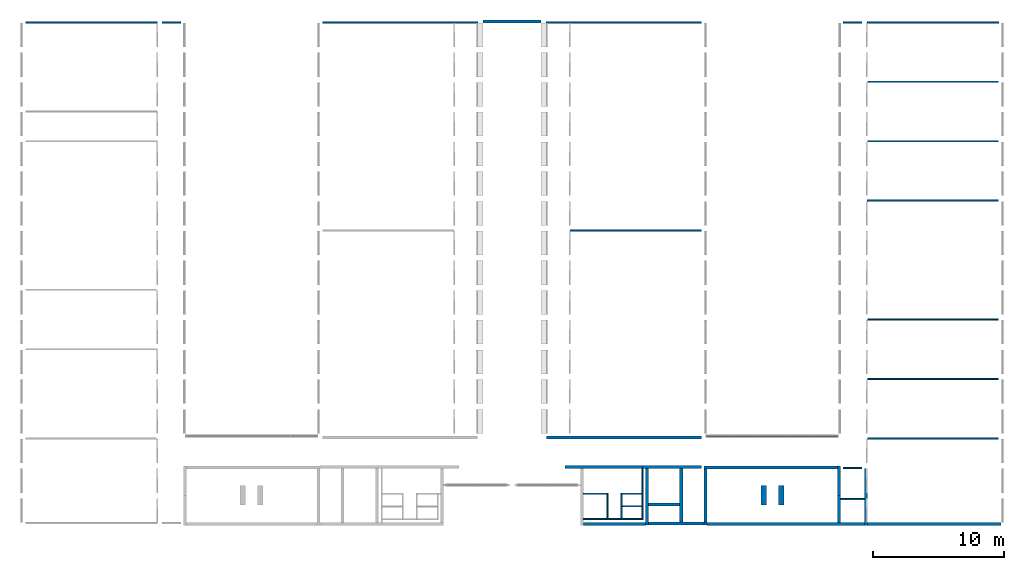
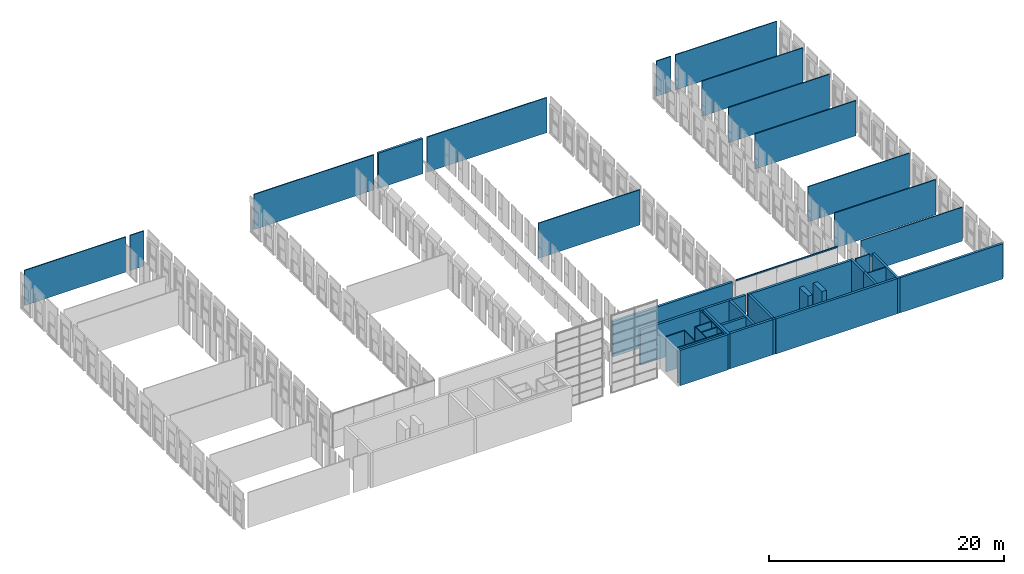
# One storey, part 8 of 16: 42 walls, 1 opening.
"""IFC2X3 building model written with IfcOpenShell, lengths in millimetres."""

from ifc_helpers import new_model, entity, si_unit, converted_unit, derived_unit, direction, frame, frame_2d, origin, place, context, subcontext, project, spatial, polyline, rectangle, extrude, clip, bounded_halfspace, material, layer, layer_set, layer_usage, type_object, element, save


model = new_model("IFC2X3")

# Units and contexts
model_context = context("Model", 3, precision=0.01, world=origin(), true_north=direction((6.12303176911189e-17, 1.0)))
body_context = subcontext(model_context, "Body", "Model", "MODEL_VIEW")
ifc_project = project(units=[si_unit("LENGTHUNIT", "METRE", prefix="MILLI"), si_unit("AREAUNIT", "SQUARE_METRE"), si_unit("VOLUMEUNIT", "CUBIC_METRE"), converted_unit("PLANEANGLEUNIT", "DEGREE", entity("IfcRatioMeasure", 0.0174532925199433), si_unit("PLANEANGLEUNIT", "RADIAN"), dimensions=[0, 0, 0, 0, 0, 0, 0]), si_unit("MASSUNIT", "GRAM", prefix="KILO"), derived_unit("MASSDENSITYUNIT", [(si_unit("MASSUNIT", "GRAM", prefix="KILO"), 1), (si_unit("LENGTHUNIT", "METRE"), -3)]), derived_unit("MOMENTOFINERTIAUNIT", [(si_unit("LENGTHUNIT", "METRE"), 4)]), si_unit("TIMEUNIT", "SECOND"), si_unit("FREQUENCYUNIT", "HERTZ"), si_unit("THERMODYNAMICTEMPERATUREUNIT", "DEGREE_CELSIUS"), derived_unit("THERMALTRANSMITTANCEUNIT", [(si_unit("MASSUNIT", "GRAM", prefix="KILO"), 1), (si_unit("THERMODYNAMICTEMPERATUREUNIT", "KELVIN"), -1), (si_unit("TIMEUNIT", "SECOND"), -3)]), derived_unit("VOLUMETRICFLOWRATEUNIT", [(si_unit("LENGTHUNIT", "METRE"), 3), (si_unit("TIMEUNIT", "SECOND"), -1)]), si_unit("ELECTRICCURRENTUNIT", "AMPERE"), si_unit("ELECTRICVOLTAGEUNIT", "VOLT"), si_unit("POWERUNIT", "WATT"), si_unit("FORCEUNIT", "NEWTON", prefix="KILO"), si_unit("ILLUMINANCEUNIT", "LUX"), si_unit("LUMINOUSFLUXUNIT", "LUMEN"), si_unit("LUMINOUSINTENSITYUNIT", "CANDELA"), derived_unit("USERDEFINED", [(si_unit("MASSUNIT", "GRAM", prefix="KILO"), -1), (si_unit("LENGTHUNIT", "METRE"), -2), (si_unit("TIMEUNIT", "SECOND"), 3), (si_unit("LUMINOUSFLUXUNIT", "LUMEN"), 1)]), derived_unit("LINEARVELOCITYUNIT", [(si_unit("LENGTHUNIT", "METRE"), 1), (si_unit("TIMEUNIT", "SECOND"), -1)]), si_unit("PRESSUREUNIT", "PASCAL"), derived_unit("USERDEFINED", [(si_unit("LENGTHUNIT", "METRE"), -2), (si_unit("MASSUNIT", "GRAM", prefix="KILO"), 1), (si_unit("TIMEUNIT", "SECOND"), -2)]), derived_unit("LINEARFORCEUNIT", [(si_unit("MASSUNIT", "GRAM", prefix="KILO"), 1), (si_unit("LENGTHUNIT", "METRE"), 1), (si_unit("TIMEUNIT", "SECOND"), -2), (si_unit("LENGTHUNIT", "METRE"), -1)]), derived_unit("PLANARFORCEUNIT", [(si_unit("MASSUNIT", "GRAM", prefix="KILO"), 1), (si_unit("LENGTHUNIT", "METRE"), 1), (si_unit("TIMEUNIT", "SECOND"), -2), (si_unit("LENGTHUNIT", "METRE"), -2)])], contexts=[model_context])

# Site, building, storey
site_placement = place(None, frame((10627.5135316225, 21939.0796949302, 0.0)))
site = spatial("IfcSite", under=ifc_project, at=site_placement, Name="Default", CompositionType="ELEMENT")
building_placement = place(site_placement, origin())
building = spatial("IfcBuilding", under=site, at=building_placement, CompositionType="ELEMENT")
storey_placement = place(building_placement, frame((0.0, 0.0, 3660.0)))
storey = spatial("IfcBuildingStorey", under=building, at=storey_placement, Name="R+1", CompositionType="ELEMENT", Elevation=3660.0)

# Wall, opening
ifc_material_1 = material(Name="Paint - White Lining")
ifc_layer_1 = layer(ifc_material_1, 3.0)
ifc_material_2 = material(Name="Concrete Masonry Units")
ifc_layer_2 = layer(ifc_material_2, 94.0)
ifc_layer_3 = layer(ifc_material_1, 3.0)
ifc_layer_set_1 = layer_set([ifc_layer_1, ifc_layer_2, ifc_layer_3], Name="Basic Wall:Wall-Int 100")
ifc_layer_usage_1 = layer_usage(ifc_layer_set_1, "AXIS2", "POSITIVE", -50.0)
wall_type_1 = type_object("IfcWallType", Name="Basic Wall:Wall-Int 100", PredefinedType="STANDARD", material=ifc_layer_set_1)
wall_1_placement = place(storey_placement, frame((51357.4864683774, -15206.0796949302, 3520.0), z_axis=(0.0, 0.0, 1.0), x_axis=(-1.0, 0.0, 0.0)))
wall_1 = element("IfcWallStandardCase", 1, at=wall_1_placement, inside=storey, type_object=wall_type_1, material=ifc_layer_usage_1, Name="Basic Wall:Wall-Int 100", ObjectType="Basic Wall:Wall-Int 100", context=body_context, shape_type="SweptSolid", body=[
    extrude(rectangle(XDim=9950.0, YDim=99.9999999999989, at=frame_2d((4975.0, 0.0), x_axis=(-1.0, 0.0))), origin(), (0.0, 0.0, 1.0), 140.000000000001),
])
opening_placement = place(wall_1_placement, origin())
element("IfcOpeningElement", 2, at=opening_placement, cuts=wall_1, Name="Basic Wall:Wall-Int 100", ObjectType="Opening", context=body_context, shape_type="SweptSolid", body=[
    extrude(rectangle(XDim=3520.0, YDim=9950.0, at=frame_2d((4.09272615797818e-12, -4.54747350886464e-13), x_axis=(0.0, 1.0))), frame((4975.0, -202.399999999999, -1760.0), z_axis=(0.0, 1.0, 0.0), x_axis=(-1.0, 0.0, 0.0)), (0.0, 0.0, 1.0), 404.799999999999),
])

# Walls
ifc_layer_usage_2 = layer_usage(ifc_layer_set_1, "AXIS2", "NEGATIVE", 50.0)
wall_2_placement = place(storey_placement, frame((40977.4864683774, 495.920305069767, 0.0), z_axis=(0.0, 0.0, 1.0), x_axis=(-1.0, 0.0, 0.0)))
element("IfcWallStandardCase", 3, at=wall_2_placement, inside=storey, type_object=wall_type_1, material=ifc_layer_usage_2, Name="Basic Wall:Wall-Int 100", ObjectType="Basic Wall:Wall-Int 100", context=body_context, shape_type="SweptSolid", body=[
    extrude(rectangle(XDim=9951.00000000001, YDim=100.0, at=frame_2d((4975.5, 0.0), x_axis=(-1.0, 0.0))), origin(), (0.0, 0.0, 1.0), 3660.0),
])
ifc_layer_usage_3 = layer_usage(ifc_layer_set_1, "AXIS2", "POSITIVE", -50.0)
wall_3_placement = place(storey_placement, frame((-10414.5135316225, 16315.9203050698, 0.0)))
element("IfcWallStandardCase", 4, at=wall_3_placement, inside=storey, type_object=wall_type_1, material=ifc_layer_usage_3, Name="Basic Wall:Wall-Int 100", ObjectType="Basic Wall:Wall-Int 100", context=body_context, shape_type="SweptSolid", body=[
    extrude(rectangle(XDim=10004.0, YDim=99.9999999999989, at=frame_2d((5002.0, 8.17124146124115e-14), x_axis=(-1.0, 0.0))), origin(), (0.0, 0.0, 1.0), 3660.0),
])
ifc_layer_usage_4 = layer_usage(ifc_layer_set_1, "AXIS2", "POSITIVE", -50.0)
wall_4_placement = place(storey_placement, frame((-24.5135316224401, 16315.6927468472, 0.0)))
element("IfcWallStandardCase", 5, at=wall_4_placement, inside=storey, type_object=wall_type_1, material=ifc_layer_usage_4, Name="Basic Wall:Wall-Int 100", ObjectType="Basic Wall:Wall-Int 100", context=body_context, shape_type="SweptSolid", body=[
    extrude(rectangle(XDim=1400.0, YDim=99.9999999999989, at=frame_2d((700.0, 0.0), x_axis=(-1.0, 0.0))), origin(), (0.0, 0.0, 1.0), 3660.0),
])
ifc_layer_usage_5 = layer_usage(ifc_layer_set_1, "AXIS2", "NEGATIVE", 50.0)
wall_5_placement = place(storey_placement, frame((53179.4864683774, 16315.6927468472, 0.0), z_axis=(0.0, 0.0, 1.0), x_axis=(-1.0, 0.0, 0.0)))
element("IfcWallStandardCase", 6, at=wall_5_placement, inside=storey, type_object=wall_type_1, material=ifc_layer_usage_5, Name="Basic Wall:Wall-Int 100", ObjectType="Basic Wall:Wall-Int 100", context=body_context, shape_type="SweptSolid", body=[
    extrude(rectangle(XDim=1400.0, YDim=99.9999999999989, at=frame_2d((700.000000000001, 0.0), x_axis=(-1.0, 0.0))), origin(), (0.0, 0.0, 1.0), 3660.0),
])
ifc_layer_usage_6 = layer_usage(ifc_layer_set_1, "AXIS2", "POSITIVE", -50.0)
wall_6_placement = place(storey_placement, frame((53615.4864683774, 16315.9203050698, 0.0)))
element("IfcWallStandardCase", 7, at=wall_6_placement, inside=storey, type_object=wall_type_1, material=ifc_layer_usage_6, Name="Basic Wall:Wall-Int 100", ObjectType="Basic Wall:Wall-Int 100", context=body_context, shape_type="SweptSolid", body=[
    extrude(rectangle(XDim=9980.00000000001, YDim=99.9999999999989, at=frame_2d((4990.0, 0.0), x_axis=(-1.0, 0.0))), origin(), (0.0, 0.0, 1.0), 3660.0),
])
ifc_layer_usage_7 = layer_usage(ifc_layer_set_1, "AXIS2", "POSITIVE", -50.0)
wall_7_placement = place(storey_placement, frame((53616.4864683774, 11795.9203050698, 0.0)))
element("IfcWallStandardCase", 8, at=wall_7_placement, inside=storey, type_object=wall_type_1, material=ifc_layer_usage_7, Name="Basic Wall:Wall-Int 100", ObjectType="Basic Wall:Wall-Int 100", context=body_context, shape_type="SweptSolid", body=[
    extrude(rectangle(XDim=9950.99999999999, YDim=99.9999999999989, at=frame_2d((4975.5, 0.0), x_axis=(-1.0, 0.0))), origin(), (0.0, 0.0, 1.0), 3660.0),
])
ifc_layer_usage_8 = layer_usage(ifc_layer_set_1, "AXIS2", "NEGATIVE", 50.0)
wall_8_placement = place(storey_placement, frame((63569.4864683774, 7275.92030506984, 0.0), z_axis=(0.0, 0.0, 1.0), x_axis=(-1.0, 0.0, 0.0)))
element("IfcWallStandardCase", 9, at=wall_8_placement, inside=storey, type_object=wall_type_1, material=ifc_layer_usage_8, Name="Basic Wall:Wall-Int 100", ObjectType="Basic Wall:Wall-Int 100", context=body_context, shape_type="SweptSolid", body=[
    extrude(rectangle(XDim=9952.0, YDim=99.9999999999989, at=frame_2d((4976.0, 0.0), x_axis=(-1.0, 0.0))), origin(), (0.0, 0.0, 1.0), 3660.0),
])
ifc_layer_usage_9 = layer_usage(ifc_layer_set_1, "AXIS2", "POSITIVE", -50.0)
wall_9_placement = place(storey_placement, frame((53615.4864683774, 2755.92030506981, 0.0)))
element("IfcWallStandardCase", 10, at=wall_9_placement, inside=storey, type_object=wall_type_1, material=ifc_layer_usage_9, Name="Basic Wall:Wall-Int 100", ObjectType="Basic Wall:Wall-Int 100", context=body_context, shape_type="SweptSolid", body=[
    extrude(rectangle(XDim=9951.99999999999, YDim=100.0, at=frame_2d((4975.99999999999, 0.0), x_axis=(-1.0, 0.0))), origin(), (0.0, 0.0, 1.0), 3660.0),
])
ifc_layer_usage_10 = layer_usage(ifc_layer_set_1, "AXIS2", "NEGATIVE", 50.0)
wall_10_placement = place(storey_placement, frame((63569.4864683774, -6284.07969493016, 0.0), z_axis=(0.0, 0.0, 1.0), x_axis=(-1.0, 0.0, 0.0)))
element("IfcWallStandardCase", 11, at=wall_10_placement, inside=storey, type_object=wall_type_1, material=ifc_layer_usage_10, Name="Basic Wall:Wall-Int 100", ObjectType="Basic Wall:Wall-Int 100", context=body_context, shape_type="SweptSolid", body=[
    extrude(rectangle(XDim=9952.0, YDim=99.9999999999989, at=frame_2d((4976.0, 0.0), x_axis=(-1.0, 0.0))), origin(), (0.0, 0.0, 1.0), 3660.0),
])
ifc_layer_usage_11 = layer_usage(ifc_layer_set_1, "AXIS2", "POSITIVE", -50.0)
wall_11_placement = place(storey_placement, frame((53617.4864683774, -10804.0796949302, 0.0)))
element("IfcWallStandardCase", 12, at=wall_11_placement, inside=storey, type_object=wall_type_1, material=ifc_layer_usage_11, Name="Basic Wall:Wall-Int 100", ObjectType="Basic Wall:Wall-Int 100", context=body_context, shape_type="SweptSolid", body=[
    extrude(rectangle(XDim=9950.0, YDim=99.9999999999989, at=frame_2d((4975.0, 0.0), x_axis=(-1.0, 0.0))), origin(), (0.0, 0.0, 1.0), 3660.0),
])
ifc_layer_usage_12 = layer_usage(ifc_layer_set_1, "AXIS2", "NEGATIVE", 50.0)
wall_12_placement = place(storey_placement, frame((63569.4864683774, -15324.0796949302, 0.0), z_axis=(0.0, 0.0, 1.0), x_axis=(-1.0, 0.0, 0.0)))
element("IfcWallStandardCase", 13, at=wall_12_placement, inside=storey, type_object=wall_type_1, material=ifc_layer_usage_12, Name="Basic Wall:Wall-Int 100", ObjectType="Basic Wall:Wall-Int 100", context=body_context, shape_type="Clipping", body=[
    clip(extrude(rectangle(XDim=9952.0, YDim=99.9999999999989, at=frame_2d((4976.0, 0.0), x_axis=(-1.0, 0.0))), origin(), (0.0, 0.0, 1.0), 3530.0), bounded_halfspace(frame((0.0, -50.0, 3530.0), z_axis=(0.0, 0.0, -1.0), x_axis=(1.0, 0.0, 0.0)), True, frame((0.0, -50.0, 3530.0)), polyline([(0.0, 0.0), (9952.0, 0.0), (9952.0, 100.0), (0.0, 100.0), (0.0, 0.0)]))),
])
ifc_layer_usage_13 = layer_usage(ifc_layer_set_1, "AXIS2", "POSITIVE", -50.0)
wall_13_placement = place(storey_placement, frame((51785.4864683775, -17584.0796949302, 0.0)))
element("IfcWallStandardCase", 14, at=wall_13_placement, inside=storey, type_object=wall_type_1, material=ifc_layer_usage_13, Name="Basic Wall:Wall-Int 100", ObjectType="Basic Wall:Wall-Int 100", context=body_context, shape_type="SweptSolid", body=[
    extrude(rectangle(XDim=1404.0, YDim=99.9999999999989, at=frame_2d((702.000000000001, 0.0), x_axis=(-1.0, 0.0))), origin(), (0.0, 0.0, 1.0), 3660.0),
])
ifc_layer_usage_14 = layer_usage(ifc_layer_set_1, "AXIS2", "NEGATIVE", 50.0)
wall_14_placement = place(storey_placement, frame((51572.4864683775, -19944.0796949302, 0.0)))
element("IfcWallStandardCase", 15, at=wall_14_placement, inside=storey, type_object=wall_type_1, material=ifc_layer_usage_14, Name="Basic Wall:Wall-Int 100", ObjectType="Basic Wall:Wall-Int 100", context=body_context, shape_type="SweptSolid", body=[
    extrude(rectangle(XDim=1812.99999999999, YDim=100.000000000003, at=frame_2d((906.499999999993, -2.1316282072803e-14), x_axis=(-1.0, 0.0))), origin(), (0.0, 0.0, 1.0), 3660.0),
])
ifc_layer_usage_15 = layer_usage(ifc_layer_set_1, "AXIS2", "NEGATIVE", 50.0)
wall_15_placement = place(storey_placement, frame((36554.803606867, -21454.3072488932, 0.0), z_axis=(0.0, 0.0, 1.0), x_axis=(-1.0, 0.0, 0.0)))
element("IfcWallStandardCase", 16, at=wall_15_placement, inside=storey, type_object=wall_type_1, material=ifc_layer_usage_15, Name="Basic Wall:Wall-Int 100", ObjectType="Basic Wall:Wall-Int 100", context=body_context, shape_type="SweptSolid", body=[
    extrude(rectangle(XDim=4541.95714284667, YDim=100.000000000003, at=frame_2d((2270.97857142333, -1.59872115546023e-13), x_axis=(-1.0, 0.0))), origin(), (0.0, 0.0, 1.0), 3660.0),
])
ifc_layer_usage_16 = layer_usage(ifc_layer_set_1, "AXIS2", "POSITIVE", -50.0)
wall_16_placement = place(storey_placement, frame((36504.803606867, -21404.3072488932, 0.0), z_axis=(0.0, 0.0, 1.0), x_axis=(0.0, 1.0, 0.0)))
element("IfcWallStandardCase", 17, at=wall_16_placement, inside=storey, type_object=wall_type_1, material=ifc_layer_usage_16, Name="Basic Wall:Wall-Int 100", ObjectType="Basic Wall:Wall-Int 100", context=body_context, shape_type="SweptSolid", body=[
    extrude(rectangle(XDim=3770.22755396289, YDim=100.000000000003, at=frame_2d((1885.11377698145, -8.88178419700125e-14), x_axis=(-1.0, 0.0))), origin(), (0.0, 0.0, 1.0), 3660.0),
])
ifc_layer_usage_17 = layer_usage(ifc_layer_set_1, "AXIS2", "POSITIVE", -50.0)
wall_17_placement = place(storey_placement, frame((36454.803606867, -19536.6934719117, 0.0), z_axis=(0.0, 0.0, 1.0), x_axis=(-1.0, 0.0, 0.0)))
element("IfcWallStandardCase", 18, at=wall_17_placement, inside=storey, type_object=wall_type_1, material=ifc_layer_usage_17, Name="Basic Wall:Wall-Int 100", ObjectType="Basic Wall:Wall-Int 100", context=body_context, shape_type="SweptSolid", body=[
    extrude(rectangle(XDim=1590.0, YDim=100.000000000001, at=frame_2d((794.999999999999, 1.01252339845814e-12), x_axis=(-1.0, 0.0))), origin(), (0.0, 0.0, 1.0), 3660.0),
])
ifc_layer_usage_18 = layer_usage(ifc_layer_set_1, "AXIS2", "POSITIVE", -50.0)
wall_18_placement = place(storey_placement, frame((34914.803606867, -19586.6934719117, 0.0), z_axis=(0.0, 0.0, 1.0), x_axis=(0.0, -1.0, 0.0)))
element("IfcWallStandardCase", 19, at=wall_18_placement, inside=storey, type_object=wall_type_1, material=ifc_layer_usage_18, Name="Basic Wall:Wall-Int 100", ObjectType="Basic Wall:Wall-Int 100", context=body_context, shape_type="SweptSolid", body=[
    extrude(rectangle(XDim=1817.6137769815, YDim=100.000000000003, at=frame_2d((908.806888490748, -1.63424829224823e-13), x_axis=(-1.0, 0.0))), origin(), (0.0, 0.0, 1.0), 3660.0),
])
ifc_layer_usage_19 = layer_usage(ifc_layer_set_1, "AXIS2", "POSITIVE", -50.0)
wall_19_placement = place(storey_placement, frame((34964.803606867, -20489.0796949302, 0.0)))
element("IfcWallStandardCase", 20, at=wall_19_placement, inside=storey, type_object=wall_type_1, material=ifc_layer_usage_19, Name="Basic Wall:Wall-Int 100", ObjectType="Basic Wall:Wall-Int 100", context=body_context, shape_type="SweptSolid", body=[
    extrude(rectangle(XDim=1490.0, YDim=100.000000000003, at=frame_2d((745.0, -1.35003119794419e-13), x_axis=(-1.0, 0.0))), origin(), (0.0, 0.0, 1.0), 3660.0),
])
ifc_layer_usage_20 = layer_usage(ifc_layer_set_1, "AXIS2", "NEGATIVE", 50.0)
wall_20_placement = place(storey_placement, frame((32012.8464640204, -19537.5188881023, 0.0)))
element("IfcWallStandardCase", 21, at=wall_20_placement, inside=storey, type_object=wall_type_1, material=ifc_layer_usage_20, Name="Basic Wall:Wall-Int 100", ObjectType="Basic Wall:Wall-Int 100", context=body_context, shape_type="SweptSolid", body=[
    extrude(rectangle(XDim=1879.64000435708, YDim=100.000000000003, at=frame_2d((939.820002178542, -1.06581410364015e-12), x_axis=(-1.0, 0.0))), origin(), (0.0, 0.0, 1.0), 3660.0),
])
ifc_layer_usage_21 = layer_usage(ifc_layer_set_1, "AXIS2", "NEGATIVE", 50.0)
wall_21_placement = place(storey_placement, frame((33842.4864683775, -19587.5188881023, 0.0), z_axis=(0.0, 0.0, 1.0), x_axis=(0.0, -1.0, 0.0)))
element("IfcWallStandardCase", 22, at=wall_21_placement, inside=storey, type_object=wall_type_1, material=ifc_layer_usage_21, Name="Basic Wall:Wall-Int 100", ObjectType="Basic Wall:Wall-Int 100", context=body_context, shape_type="SweptSolid", body=[
    extrude(rectangle(XDim=1816.78836079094, YDim=100.000000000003, at=frame_2d((908.394180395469, -1.63424829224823e-13), x_axis=(-1.0, 0.0))), origin(), (0.0, 0.0, 1.0), 3660.0),
])
ifc_layer_usage_22 = layer_usage(ifc_layer_set_1, "AXIS2", "NEGATIVE", 50.0)
wall_22_placement = place(storey_placement, frame((23967.8464640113, 16315.6927553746, 0.0), z_axis=(0.0, 0.0, 1.0), x_axis=(-1.0, 0.0, 0.0)))
element("IfcWallStandardCase", 23, at=wall_22_placement, inside=storey, type_object=wall_type_1, material=ifc_layer_usage_22, Name="Basic Wall:Wall-Int 100", ObjectType="Basic Wall:Wall-Int 100", context=body_context, shape_type="SweptSolid", body=[
    extrude(rectangle(XDim=11800.0, YDim=99.9999999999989, at=frame_2d((5900.0, -3.19744231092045e-14), x_axis=(-1.0, 0.0))), origin(), (0.0, 0.0, 1.0), 3660.0),
])
ifc_layer_usage_23 = layer_usage(ifc_layer_set_1, "AXIS2", "POSITIVE", -50.0)
wall_23_placement = place(storey_placement, frame((29195.4864683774, 16315.9203050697, 0.0)))
element("IfcWallStandardCase", 24, at=wall_23_placement, inside=storey, type_object=wall_type_1, material=ifc_layer_usage_23, Name="Basic Wall:Wall-Int 100", ObjectType="Basic Wall:Wall-Int 100", context=body_context, shape_type="SweptSolid", body=[
    extrude(rectangle(XDim=11784.0, YDim=99.9999999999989, at=frame_2d((5892.0, 0.0), x_axis=(-1.0, 0.0))), origin(), (0.0, 0.0, 1.0), 3660.0),
])
ifc_layer_4 = layer(ifc_material_1, 15.0)
ifc_material_3 = material(Name="Concrete - Precast Concrete - 35 MPa")
ifc_layer_5 = layer(ifc_material_3, 400.0)
ifc_layer_6 = layer(ifc_material_1, 15.0)
ifc_layer_set_2 = layer_set([ifc_layer_4, ifc_layer_5, ifc_layer_6], Name="Basic Wall:Mur430PentureBlanche")
ifc_layer_usage_24 = layer_usage(ifc_layer_set_2, "AXIS2", "POSITIVE", -215.0)
wall_type_2 = type_object("IfcWallType", Name="Basic Wall:Mur430PentureBlanche", PredefinedType="STANDARD", material=ifc_layer_set_2)
wall_24_placement = place(storey_placement, frame((47059.9064788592, -18920.8001977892, 0.0), z_axis=(0.0, 0.0, 1.0), x_axis=(0.0, -1.0, 0.0)))
element("IfcWallStandardCase", 25, at=wall_24_placement, inside=storey, type_object=wall_type_2, material=ifc_layer_usage_24, Name="Basic Wall:Mur430PentureBlanche", ObjectType="Basic Wall:Mur430PentureBlanche", context=body_context, shape_type="SweptSolid", body=[
    extrude(rectangle(XDim=1490.00177328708, YDim=430.000000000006, at=frame_2d((745.000886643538, -1.08002495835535e-12), x_axis=(-1.0, 0.0))), origin(), (0.0, 0.0, 1.0), 3660.0),
])
ifc_layer_usage_25 = layer_usage(ifc_layer_set_2, "AXIS2", "POSITIVE", -215.0)
wall_25_placement = place(storey_placement, frame((45714.9043663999, -18920.8001977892, 0.0), z_axis=(0.0, 0.0, 1.0), x_axis=(0.0, -1.0, 0.0)))
element("IfcWallStandardCase", 26, at=wall_25_placement, inside=storey, type_object=wall_type_2, material=ifc_layer_usage_25, Name="Basic Wall:Mur430PentureBlanche", ObjectType="Basic Wall:Mur430PentureBlanche", context=body_context, shape_type="SweptSolid", body=[
    extrude(rectangle(XDim=1490.00177328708, YDim=430.000000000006, at=frame_2d((745.000886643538, -1.08002495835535e-12), x_axis=(-1.0, 0.0))), origin(), (0.0, 0.0, 1.0), 3660.0),
])
ifc_layer_7 = layer(ifc_material_1, 15.0)
ifc_layer_8 = layer(ifc_material_3, 200.0)
ifc_layer_9 = layer(ifc_material_1, 15.0)
ifc_layer_set_3 = layer_set([ifc_layer_7, ifc_layer_8, ifc_layer_9], Name="Basic Wall:Mur200PentureBlanche 2")
ifc_layer_usage_26 = layer_usage(ifc_layer_set_3, "AXIS2", "POSITIVE", -115.0)
wall_type_3 = type_object("IfcWallType", Name="Basic Wall:Mur200PentureBlanche 2", PredefinedType="STANDARD", material=ifc_layer_set_3)
wall_26_placement = place(storey_placement, frame((51457.4864683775, -21724.0796949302, 0.0), z_axis=(0.0, 0.0, 1.0), x_axis=(0.0, 1.0, 0.0)))
element("IfcWallStandardCase", 27, at=wall_26_placement, inside=storey, type_object=wall_type_3, material=ifc_layer_usage_26, Name="Basic Wall:Mur200PentureBlanche 2", ObjectType="Basic Wall:Mur200PentureBlanche 2", context=body_context, shape_type="SweptSolid", body=[
    extrude(rectangle(XDim=2045.00000000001, YDim=230.0, at=frame_2d((1022.5, -1.66267000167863e-12), x_axis=(-1.0, 0.0))), origin(), (0.0, 0.0, 1.0), 3660.0),
])
ifc_layer_usage_27 = layer_usage(ifc_layer_set_3, "AXIS2", "NEGATIVE", 115.0)
wall_27_placement = place(storey_placement, frame((51459.4864683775, -19679.0796949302, 0.0), z_axis=(0.0, 0.0, 1.0), x_axis=(0.0, 1.0, 0.0)))
element("IfcWallStandardCase", 28, at=wall_27_placement, inside=storey, type_object=wall_type_3, material=ifc_layer_usage_27, Name="Basic Wall:Mur200PentureBlanche 2", ObjectType="Basic Wall:Mur200PentureBlanche 2", context=body_context, shape_type="SweptSolid", body=[
    extrude(rectangle(XDim=2259.99999999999, YDim=230.0, at=frame_2d((1130.0, -1.83320025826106e-12), x_axis=(-1.0, 0.0))), origin(), (0.0, 0.0, 1.0), 3660.0),
])
ifc_layer_usage_28 = layer_usage(ifc_layer_set_3, "AXIS2", "NEGATIVE", 115.0)
wall_28_placement = place(storey_placement, frame((51344.4864683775, -17534.0796949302, 0.0), z_axis=(0.0, 0.0, 1.0), x_axis=(-1.0, 0.0, 0.0)))
element("IfcWallStandardCase", 29, at=wall_28_placement, inside=storey, type_object=wall_type_3, material=ifc_layer_usage_28, Name="Basic Wall:Mur200PentureBlanche 2", ObjectType="Basic Wall:Mur200PentureBlanche 2", context=body_context, shape_type="SweptSolid", body=[
    extrude(rectangle(XDim=10152.0, YDim=230.0, at=frame_2d((5076.0, -3.19744231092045e-13), x_axis=(-1.0, 0.0))), origin(), (0.0, 0.0, 1.0), 3660.0),
])
ifc_layer_usage_29 = layer_usage(ifc_layer_set_3, "AXIS2", "NEGATIVE", 115.0)
wall_29_placement = place(storey_placement, frame((41307.4864683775, -17649.0796949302, 0.0), z_axis=(0.0, 0.0, 1.0), x_axis=(0.0, -1.0, 0.0)))
element("IfcWallStandardCase", 30, at=wall_29_placement, inside=storey, type_object=wall_type_3, material=ifc_layer_usage_29, Name="Basic Wall:Mur200PentureBlanche 2", ObjectType="Basic Wall:Mur200PentureBlanche 2", context=body_context, shape_type="SweptSolid", body=[
    extrude(rectangle(XDim=4034.99999999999, YDim=230.0, at=frame_2d((2017.5, -8.81072992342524e-13), x_axis=(-1.0, 0.0))), origin(), (0.0, 0.0, 1.0), 3660.0),
])
ifc_layer_usage_30 = layer_usage(ifc_layer_set_3, "AXIS2", "NEGATIVE", 115.0)
wall_30_placement = place(storey_placement, frame((41307.4864683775, -17649.0796949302, 0.0), z_axis=(0.0, 0.0, 1.0), x_axis=(0.0, -1.0, 0.0)))
element("IfcWallStandardCase", 31, at=wall_30_placement, inside=storey, type_object=wall_type_3, material=ifc_layer_usage_30, Name="Basic Wall:Mur200PentureBlanche 2", ObjectType="Basic Wall:Mur200PentureBlanche 2", context=body_context, shape_type="SweptSolid", body=[
    extrude(rectangle(XDim=4264.99999999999, YDim=230.0, at=frame_2d((2132.5, -1.17239551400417e-12), x_axis=(-1.0, 0.0))), origin(), (0.0, 0.0, 1.0), 3660.0),
])
ifc_layer_usage_31 = layer_usage(ifc_layer_set_3, "AXIS2", "POSITIVE", -115.0)
wall_31_placement = place(storey_placement, frame((40977.4864683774, -17519.0796949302, 0.0), z_axis=(0.0, 0.0, 1.0), x_axis=(-1.0, 0.0, 0.0)))
element("IfcWallStandardCase", 32, at=wall_31_placement, inside=storey, type_object=wall_type_3, material=ifc_layer_usage_31, Name="Basic Wall:Mur200PentureBlanche 2", ObjectType="Basic Wall:Mur200PentureBlanche 2", context=body_context, shape_type="SweptSolid", body=[
    extrude(rectangle(XDim=4472.6828615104, YDim=230.0, at=frame_2d((2236.3414307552, 7.105427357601e-15), x_axis=(-1.0, 0.0))), origin(), (0.0, 0.0, 1.0), 3660.0),
])
ifc_layer_usage_32 = layer_usage(ifc_layer_set_3, "AXIS2", "POSITIVE", -115.0)
wall_32_placement = place(storey_placement, frame((36850.1073360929, -17634.0796949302, 0.0), z_axis=(0.0, 0.0, 1.0), x_axis=(0.0, -1.0, 0.0)))
element("IfcWallStandardCase", 33, at=wall_32_placement, inside=storey, type_object=wall_type_3, material=ifc_layer_usage_32, Name="Basic Wall:Mur200PentureBlanche 2", ObjectType="Basic Wall:Mur200PentureBlanche 2", context=body_context, shape_type="SweptSolid", body=[
    extrude(rectangle(XDim=4280.0, YDim=230.0, at=frame_2d((2140.0, 0.0), x_axis=(-1.0, 0.0))), origin(), (0.0, 0.0, 1.0), 3660.0),
])
ifc_layer_usage_33 = layer_usage(ifc_layer_set_3, "AXIS2", "POSITIVE", -115.0)
wall_33_placement = place(storey_placement, frame((36965.1073360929, -21799.0796949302, 0.0)))
element("IfcWallStandardCase", 34, at=wall_33_placement, inside=storey, type_object=wall_type_3, material=ifc_layer_usage_33, Name="Basic Wall:Mur200PentureBlanche 2", ObjectType="Basic Wall:Mur200PentureBlanche 2", context=body_context, shape_type="SweptSolid", body=[
    extrude(rectangle(XDim=4227.37913228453, YDim=230.0, at=frame_2d((2113.68956614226, -1.70530256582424e-13), x_axis=(-1.0, 0.0))), origin(), (0.0, 0.0, 1.0), 3660.0),
])
ifc_layer_usage_34 = layer_usage(ifc_layer_set_3, "AXIS2", "NEGATIVE", 115.0)
wall_34_placement = place(storey_placement, frame((39450.1065292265, -17634.0796949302, 0.0), z_axis=(0.0, 0.0, 1.0), x_axis=(0.0, -1.0, 0.0)))
element("IfcWallStandardCase", 35, at=wall_34_placement, inside=storey, type_object=wall_type_3, material=ifc_layer_usage_34, Name="Basic Wall:Mur200PentureBlanche 2", ObjectType="Basic Wall:Mur200PentureBlanche 2", context=body_context, shape_type="SweptSolid", body=[
    extrude(rectangle(XDim=4050.0, YDim=230.0, at=frame_2d((2025.0, -1.20792265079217e-13), x_axis=(-1.0, 0.0))), origin(), (0.0, 0.0, 1.0), 3660.0),
])
ifc_layer_usage_35 = layer_usage(ifc_layer_set_3, "AXIS2", "POSITIVE", -115.0)
wall_35_placement = place(storey_placement, frame((39335.1065292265, -20344.0796949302, 0.0), z_axis=(0.0, 0.0, 1.0), x_axis=(-1.0, 0.0, 0.0)))
element("IfcWallStandardCase", 36, at=wall_35_placement, inside=storey, type_object=wall_type_3, material=ifc_layer_usage_35, Name="Basic Wall:Mur200PentureBlanche 2", ObjectType="Basic Wall:Mur200PentureBlanche 2", context=body_context, shape_type="SweptSolid", body=[
    extrude(rectangle(XDim=2369.99919313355, YDim=230.0, at=frame_2d((1184.99959656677, -3.76587649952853e-13), x_axis=(-1.0, 0.0))), origin(), (0.0, 0.0, 1.0), 3660.0),
])
ifc_layer_usage_36 = layer_usage(ifc_layer_set_3, "AXIS2", "NEGATIVE", 115.0)
wall_36_placement = place(storey_placement, frame((30607.8464640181, -17519.0796949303, 0.0)))
element("IfcWallStandardCase", 37, at=wall_36_placement, inside=storey, type_object=wall_type_3, material=ifc_layer_usage_36, Name="Basic Wall:Mur200PentureBlanche 2", ObjectType="Basic Wall:Mur200PentureBlanche 2", context=body_context, shape_type="SweptSolid", body=[
    extrude(rectangle(XDim=5896.95714284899, YDim=230.0, at=frame_2d((2948.4785714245, -2.1316282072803e-14), x_axis=(-1.0, 0.0))), origin(), (0.0, 0.0, 1.0), 3660.0),
])
ifc_layer_usage_37 = layer_usage(ifc_layer_set_3, "AXIS2", "POSITIVE", -115.0)
wall_37_placement = place(storey_placement, frame((32012.8464640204, -21839.0796949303, 0.0)))
element("IfcWallStandardCase", 38, at=wall_37_placement, inside=storey, type_object=wall_type_3, material=ifc_layer_usage_37, Name="Basic Wall:Mur200PentureBlanche 2", ObjectType="Basic Wall:Mur200PentureBlanche 2", context=body_context, shape_type="SweptSolid", body=[
    extrude(rectangle(XDim=4722.26087207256, YDim=230.0, at=frame_2d((2361.13043603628, -4.40536496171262e-13), x_axis=(-1.0, 0.0))), origin(), (0.0, 0.0, 1.0), 3660.0),
])
ifc_layer_usage_38 = layer_usage(ifc_layer_set_3, "AXIS2", "NEGATIVE", 115.0)
wall_38_placement = place(storey_placement, frame((40977.4864683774, -15274.0796949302, 0.0), z_axis=(0.0, 0.0, 1.0), x_axis=(-1.0, 0.0, 0.0)))
element("IfcWallStandardCase", 39, at=wall_38_placement, inside=storey, type_object=wall_type_3, material=ifc_layer_usage_38, Name="Basic Wall:Mur200PentureBlanche 2", ObjectType="Basic Wall:Mur200PentureBlanche 2", context=body_context, shape_type="SweptSolid", body=[
    extrude(rectangle(XDim=11782.0, YDim=230.0, at=frame_2d((5891.0, 0.0), x_axis=(-1.0, 0.0))), origin(), (0.0, 0.0, 1.0), 3660.0),
])
ifc_layer_usage_39 = layer_usage(ifc_layer_set_3, "AXIS2", "NEGATIVE", 115.0)
wall_39_placement = place(storey_placement, frame((53500.4864683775, -17634.0796949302, 0.0), z_axis=(0.0, 0.0, 1.0), x_axis=(0.0, -1.0, 0.0)))
element("IfcWallStandardCase", 40, at=wall_39_placement, inside=storey, type_object=wall_type_3, material=ifc_layer_usage_39, Name="Basic Wall:Mur200PentureBlanche 2", ObjectType="Basic Wall:Mur200PentureBlanche 2", context=body_context, shape_type="SweptSolid", body=[
    extrude(rectangle(XDim=4320.00000000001, YDim=230.0, at=frame_2d((2160.0, 2.48689957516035e-13), x_axis=(-1.0, 0.0))), origin(), (0.0, 0.0, 1.0), 3660.0),
])
ifc_layer_usage_40 = layer_usage(ifc_layer_set_3, "AXIS2", "NEGATIVE", 115.0)
wall_40_placement = place(storey_placement, frame((53617.4864683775, -21839.0796949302, 0.0)))
element("IfcWallStandardCase", 41, at=wall_40_placement, inside=storey, type_object=wall_type_3, material=ifc_layer_usage_40, Name="Basic Wall:Mur200PentureBlanche 2", ObjectType="Basic Wall:Mur200PentureBlanche 2", context=body_context, shape_type="SweptSolid", body=[
    extrude(rectangle(XDim=10153.8882072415, YDim=230.0, at=frame_2d((5076.94410362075, 0.0), x_axis=(-1.0, 0.0))), origin(), (0.0, 0.0, 1.0), 3660.0),
])
ifc_layer_usage_41 = layer_usage(ifc_layer_set_3, "AXIS2", "NEGATIVE", 115.0)
wall_41_placement = place(storey_placement, frame((41422.4864683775, -21839.0796949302, 0.0)))
element("IfcWallStandardCase", 42, at=wall_41_placement, inside=storey, type_object=wall_type_3, material=ifc_layer_usage_41, Name="Basic Wall:Mur200PentureBlanche 2", ObjectType="Basic Wall:Mur200PentureBlanche 2", context=body_context, shape_type="SweptSolid", body=[
    extrude(rectangle(XDim=11963.0, YDim=230.0, at=frame_2d((5981.49999999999, 2.91322521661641e-13), x_axis=(-1.0, 0.0))), origin(), (0.0, 0.0, 1.0), 3660.0),
])
ifc_layer_usage_42 = layer_usage(ifc_layer_set_3, "AXIS2", "POSITIVE", -115.0)
wall_42_placement = place(storey_placement, frame((24390.0884870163, 16379.2417029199, 0.0)))
element("IfcWallStandardCase", 43, at=wall_42_placement, inside=storey, type_object=wall_type_3, material=ifc_layer_usage_42, Name="Basic Wall:Mur200PentureBlanche 2", ObjectType="Basic Wall:Mur200PentureBlanche 2", context=body_context, shape_type="SweptSolid", body=[
    extrude(rectangle(XDim=4377.39798136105, YDim=230.0, at=frame_2d((2188.69899068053, -1.06581410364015e-13), x_axis=(-1.0, 0.0))), origin(), (0.0, 0.0, 1.0), 3660.0),
])

save(model, "model.ifc")
